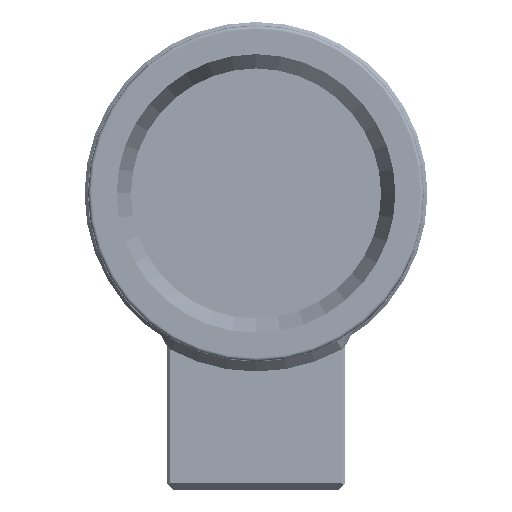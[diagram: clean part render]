
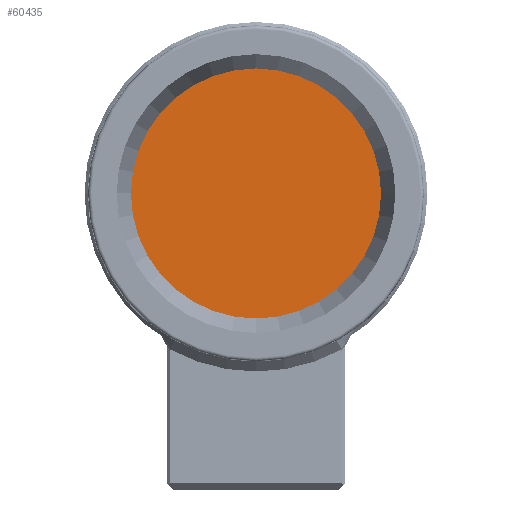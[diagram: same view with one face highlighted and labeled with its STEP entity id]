
A CAD part, left-side view. The second image highlights one B-rep face of the part: STEP entity #60435.
In plain terms, the highlighted planar face has unit normal (-1, 0, 0).
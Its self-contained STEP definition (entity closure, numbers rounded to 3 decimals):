
#5808=PLANE('',#64925);
#7514=CIRCLE('',#64926,19.5);
#7515=CIRCLE('',#64927,19.5);
#9862=FACE_OUTER_BOUND('',#13396,.T.);
#13396=EDGE_LOOP('',(#43180,#43181));
#26646=VERTEX_POINT('',#89593);
#26647=VERTEX_POINT('',#89594);
#32993=EDGE_CURVE('',#26646,#26647,#7514,.T.);
#32994=EDGE_CURVE('',#26647,#26646,#7515,.T.);
#43180=ORIENTED_EDGE('',*,*,#32993,.F.);
#43181=ORIENTED_EDGE('',*,*,#32994,.F.);
#60435=ADVANCED_FACE('',(#9862),#5808,.T.);
#64925=AXIS2_PLACEMENT_3D('',#89592,#71167,#71168);
#64926=AXIS2_PLACEMENT_3D('',#89595,#71169,#71170);
#64927=AXIS2_PLACEMENT_3D('',#89596,#71171,#71172);
#71167=DIRECTION('center_axis',(-1.,0.,0.));
#71168=DIRECTION('ref_axis',(0.,0.,1.));
#71169=DIRECTION('center_axis',(1.,0.,0.));
#71170=DIRECTION('ref_axis',(0.,0.,-1.));
#71171=DIRECTION('center_axis',(1.,0.,0.));
#71172=DIRECTION('ref_axis',(0.,0.,-1.));
#89592=CARTESIAN_POINT('Origin',(0.,19.5,0.));
#89593=CARTESIAN_POINT('',(0.,19.5,0.));
#89594=CARTESIAN_POINT('',(0.,-19.5,0.));
#89595=CARTESIAN_POINT('Origin',(0.,0.,0.));
#89596=CARTESIAN_POINT('Origin',(0.,0.,0.));
